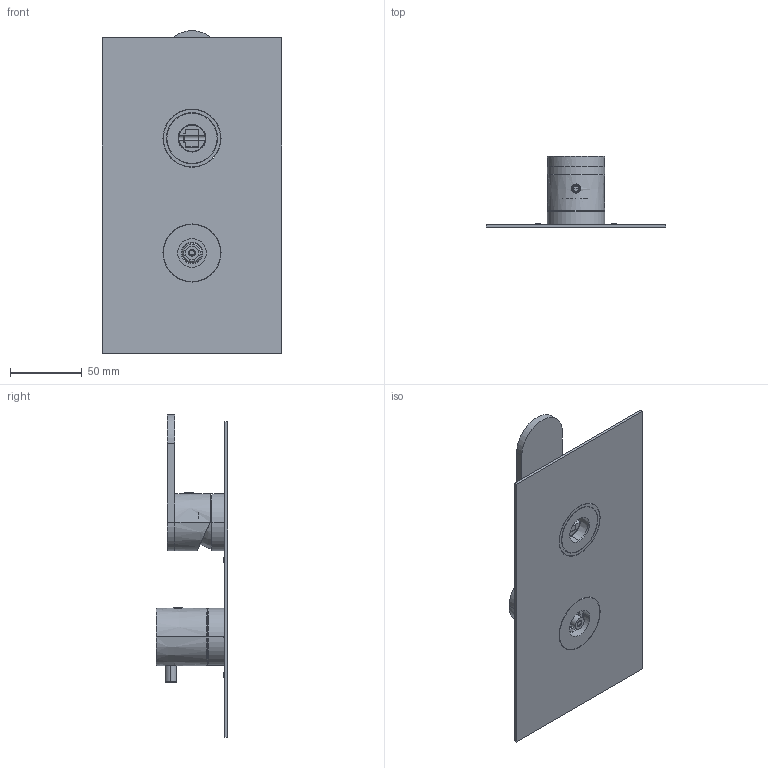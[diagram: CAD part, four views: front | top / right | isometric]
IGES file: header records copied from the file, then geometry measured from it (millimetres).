
Start section:  PTC IGES file: 79523V2.igs
Global section: file name: 79523V2.igs; native system: Creo Parametric by PTC Inc.; preprocessor: 2025443; author: carloff; organization: Unknown; date: 20261007.163205; units: millimetre
Bounding box: 125 x 49.6 x 225 mm (x, y, z)
Surface area: 95305.8 mm2 (no closed solid volume)
Topology: 0 solids, 0 shells, 692 faces, 3742 edges, 3734 vertices
Faces by surface type: revolution 417, bspline 275
